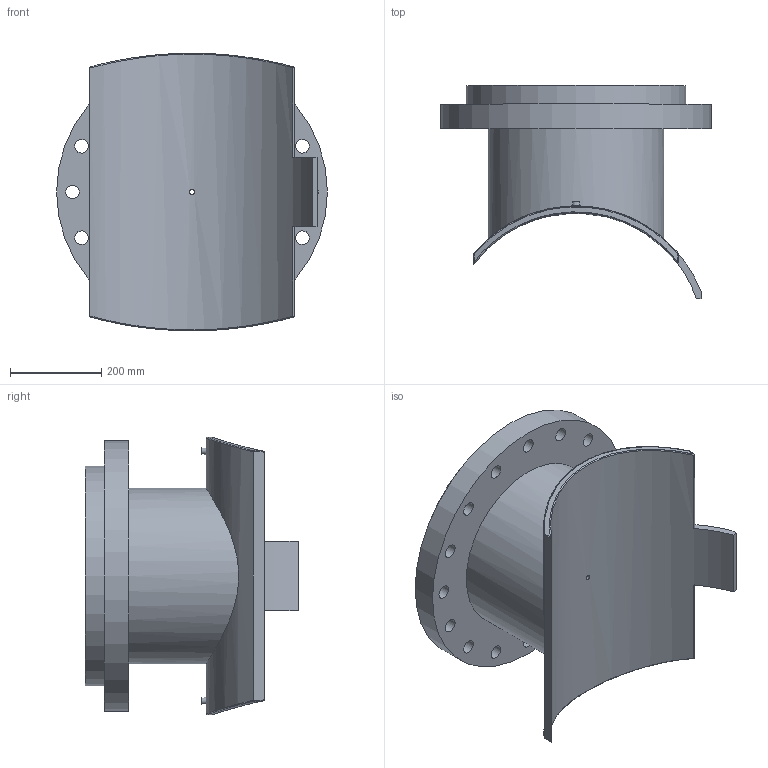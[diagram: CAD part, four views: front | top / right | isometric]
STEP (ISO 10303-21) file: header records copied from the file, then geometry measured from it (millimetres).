
FILE_DESCRIPTION(/* description */ ('PLASSON FLANGED BRANCH SADDLE 560X400'),/* implementation_level */ '2;1');
FILE_NAME(/* name */ 'C:\Dropbox\KIMPROJECTS-Inventor 2019\99-16-3568-Processing\ElectroFusion Fittings\495904_495903\stp\495903560400T.stp',/* time_stamp */ '2024-04-03T21:05:57+02:00',/* author */ ('KIM'),/* organization */ (''),/* preprocessor_version */ 'ST-DEVELOPER v17.2',/* originating_system */ 'Autodesk Inventor 2019',/* authorisation */ '');
FILE_SCHEMA (('AUTOMOTIVE_DESIGN { 1 0 10303 214 3 1 1 }'));
Length unit declared in the file: millimetre
Products named in the file (1): 495903560400T
Bounding box: 595 x 468.23 x 609.86 mm (x, y, z)
Volume: 25238723.9 mm3; surface area: 1780249.2 mm2
Topology: 1 solids, 1 shells, 66 faces, 175 edges, 134 vertices
Faces by surface type: cylinder 39, plane 17, sphere 4, bspline 4, cone 2
Full cylindrical faces by diameter (mm): 4 x2, 10 x2, 10.4 x1, 16 x1, 30 x16, 327 x1, 385.6 x1, 482 x1, 595 x1
Entity records: 2801 total; most frequent: CARTESIAN_POINT 1041, DIRECTION 353, ORIENTED_EDGE 322, EDGE_CURVE 161, AXIS2_PLACEMENT_3D 149, EDGE_LOOP 111, VERTEX_POINT 108, CIRCLE 86
